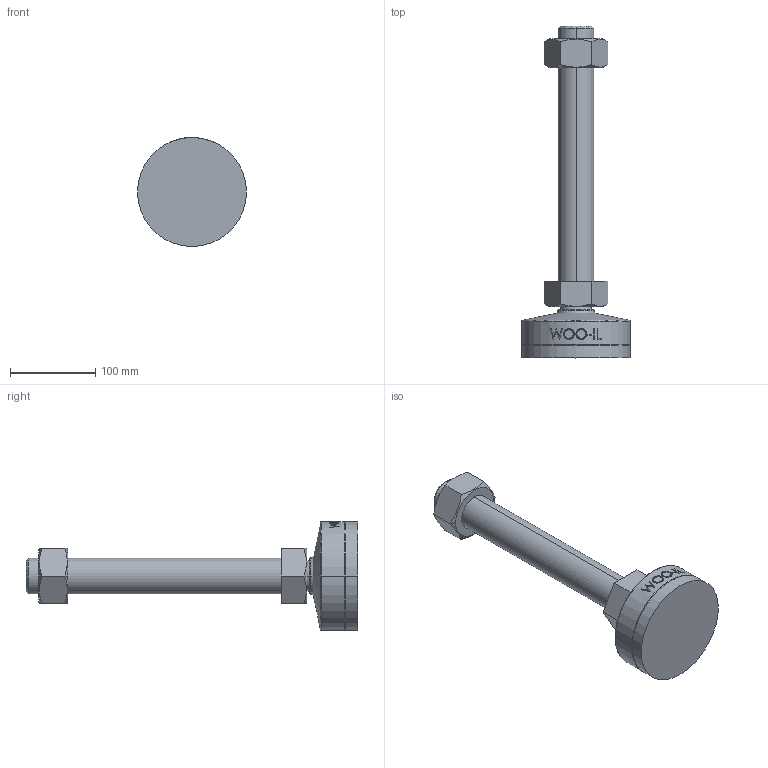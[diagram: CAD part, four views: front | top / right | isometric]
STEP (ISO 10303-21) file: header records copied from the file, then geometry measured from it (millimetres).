
FILE_DESCRIPTION (( 'STEP AP214' ), '1' );
FILE_NAME ('MFNR128-M42-300.step', '2021-02-22T09:05:25', ( '' ), ( '' ), 'SwSTEP 2.0', 'SolidWorks 2019', '' );
FILE_SCHEMA (( 'AUTOMOTIVE_DESIGN' ));
Length unit declared in the file: millimetre
Products named in the file (2): MFNR128-M42-300
Bounding box: 128 x 390 x 128 mm (x, y, z)
Volume: 1229801.7 mm3; surface area: 112252.7 mm2
Topology: 2 solids, 2 shells, 103 faces, 239 edges, 152 vertices
Faces by surface type: plane 47, cone 18, cylinder 16, bspline 16, torus 4, sphere 2
Entity records: 4657 total; most frequent: CARTESIAN_POINT 2378, ORIENTED_EDGE 478, DIRECTION 423, EDGE_CURVE 239, AXIS2_PLACEMENT_3D 161, VERTEX_POINT 152, EDGE_LOOP 117, ADVANCED_FACE 103
